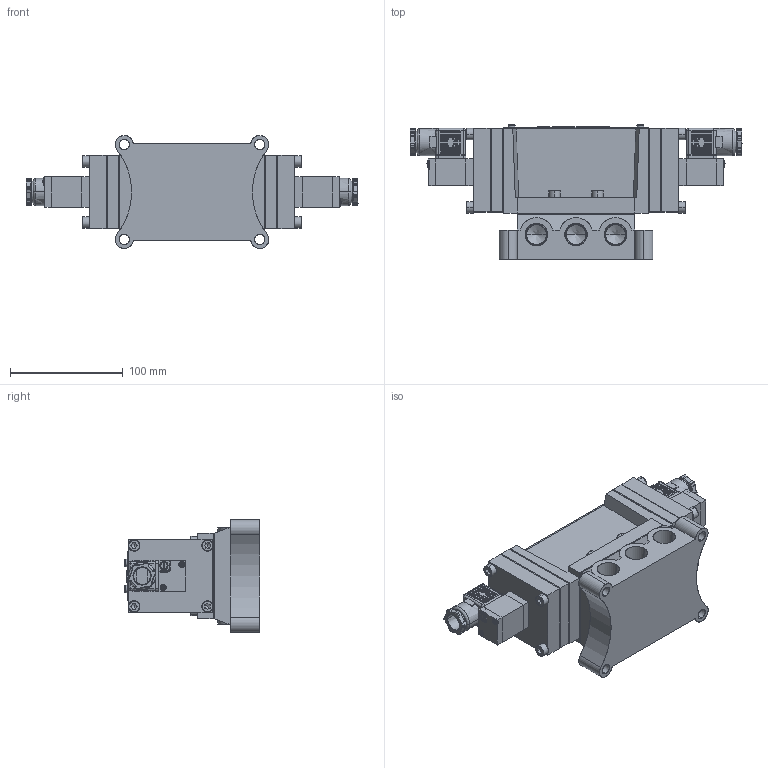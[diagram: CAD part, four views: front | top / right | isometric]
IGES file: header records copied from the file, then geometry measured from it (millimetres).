
Start section: SolidWorks IGES file using analytic representation for surfaces
Global section: file name: D:\Custom\3D繪製\PM\PM15\PMD3415#-04-#C#.IGS,1; native system: 5HSolidWorks 2014; preprocessor: SolidWorks 2014; author: Chieh_Lu; date: 151215.222157; units: millimetre
Bounding box: 294 x 119.55 x 100 mm (x, y, z)
Surface area: 261736.7 mm2 (no closed solid volume)
Topology: 0 solids, 0 shells, 1785 faces, 16433 edges, 16131 vertices
Faces by surface type: revolution 936, bspline 849
